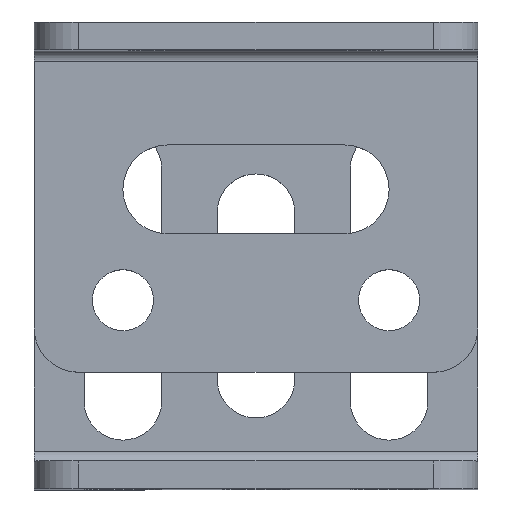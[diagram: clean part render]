
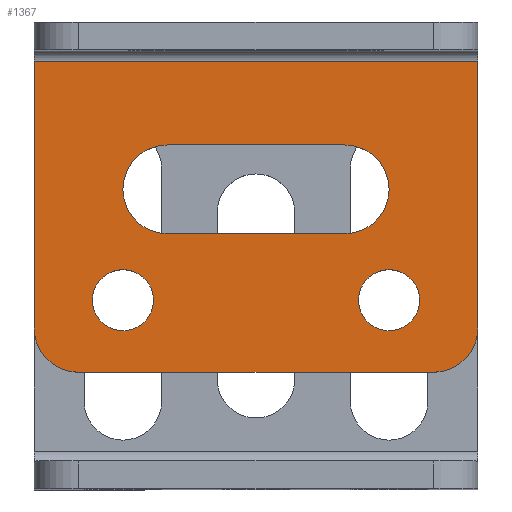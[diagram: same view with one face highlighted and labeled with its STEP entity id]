
A CAD part, top view. The second image highlights one B-rep face of the part: STEP entity #1367.
In plain terms, the highlighted planar face has unit normal (0, 0, 1).
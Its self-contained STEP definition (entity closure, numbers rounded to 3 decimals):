
#25=FACE_BOUND('',#226,.T.);
#26=FACE_BOUND('',#227,.T.);
#27=FACE_BOUND('',#228,.T.);
#50=CIRCLE('',#1500,4.);
#52=CIRCLE('',#1504,4.);
#54=CIRCLE('',#1507,2.75);
#56=CIRCLE('',#1510,2.75);
#58=CIRCLE('',#1513,4.);
#59=CIRCLE('',#1516,4.);
#153=FACE_OUTER_BOUND('',#225,.T.);
#225=EDGE_LOOP('',(#901,#902,#903,#904,#905,#906));
#226=EDGE_LOOP('',(#907,#908,#909,#910));
#227=EDGE_LOOP('',(#911));
#228=EDGE_LOOP('',(#912));
#315=LINE('',#2051,#439);
#320=LINE('',#2064,#444);
#325=LINE('',#2091,#449);
#328=LINE('',#2097,#452);
#329=LINE('',#2101,#453);
#330=LINE('',#2102,#454);
#439=VECTOR('',#1644,10.);
#444=VECTOR('',#1657,10.);
#449=VECTOR('',#1688,10.);
#452=VECTOR('',#1693,10.);
#453=VECTOR('',#1696,10.);
#454=VECTOR('',#1697,10.);
#563=VERTEX_POINT('',#2048);
#564=VERTEX_POINT('',#2050);
#566=VERTEX_POINT('',#2056);
#568=VERTEX_POINT('',#2062);
#570=VERTEX_POINT('',#2071);
#572=VERTEX_POINT('',#2077);
#575=VERTEX_POINT('',#2084);
#576=VERTEX_POINT('',#2086);
#577=VERTEX_POINT('',#2090);
#579=VERTEX_POINT('',#2096);
#580=VERTEX_POINT('',#2098);
#581=VERTEX_POINT('',#2100);
#683=EDGE_CURVE('',#564,#563,#315,.T.);
#687=EDGE_CURVE('',#563,#566,#50,.T.);
#690=EDGE_CURVE('',#566,#568,#320,.T.);
#692=EDGE_CURVE('',#568,#564,#52,.T.);
#695=EDGE_CURVE('',#570,#570,#54,.T.);
#698=EDGE_CURVE('',#572,#572,#56,.T.);
#701=EDGE_CURVE('',#575,#576,#58,.T.);
#703=EDGE_CURVE('',#577,#576,#325,.T.);
#706=EDGE_CURVE('',#575,#579,#328,.T.);
#707=EDGE_CURVE('',#580,#579,#59,.T.);
#708=EDGE_CURVE('',#581,#580,#329,.T.);
#709=EDGE_CURVE('',#581,#577,#330,.T.);
#901=ORIENTED_EDGE('',*,*,#701,.F.);
#902=ORIENTED_EDGE('',*,*,#706,.T.);
#903=ORIENTED_EDGE('',*,*,#707,.F.);
#904=ORIENTED_EDGE('',*,*,#708,.F.);
#905=ORIENTED_EDGE('',*,*,#709,.T.);
#906=ORIENTED_EDGE('',*,*,#703,.T.);
#907=ORIENTED_EDGE('',*,*,#683,.T.);
#908=ORIENTED_EDGE('',*,*,#687,.T.);
#909=ORIENTED_EDGE('',*,*,#690,.T.);
#910=ORIENTED_EDGE('',*,*,#692,.T.);
#911=ORIENTED_EDGE('',*,*,#695,.T.);
#912=ORIENTED_EDGE('',*,*,#698,.T.);
#1248=PLANE('',#1515);
#1367=ADVANCED_FACE('',(#153,#25,#26,#27),#1248,.F.);
#1500=AXIS2_PLACEMENT_3D('',#2058,#1651,#1652);
#1504=AXIS2_PLACEMENT_3D('',#2067,#1662,#1663);
#1507=AXIS2_PLACEMENT_3D('',#2073,#1669,#1670);
#1510=AXIS2_PLACEMENT_3D('',#2079,#1676,#1677);
#1513=AXIS2_PLACEMENT_3D('',#2087,#1683,#1684);
#1515=AXIS2_PLACEMENT_3D('',#2095,#1691,#1692);
#1516=AXIS2_PLACEMENT_3D('',#2099,#1694,#1695);
#1644=DIRECTION('',(1.,0.,0.));
#1651=DIRECTION('center_axis',(0.,0.,
-1.));
#1652=DIRECTION('ref_axis',(0.,1.,0.));
#1657=DIRECTION('',(-1.,0.,0.));
#1662=DIRECTION('center_axis',(0.,0.,
-1.));
#1663=DIRECTION('ref_axis',(0.,-1.,0.));
#1669=DIRECTION('center_axis',(0.,0.,
-1.));
#1670=DIRECTION('ref_axis',(-1.,0.,0.));
#1676=DIRECTION('center_axis',(0.,0.,
-1.));
#1677=DIRECTION('ref_axis',(-1.,0.,0.));
#1683=DIRECTION('center_axis',(0.,0.,
-1.));
#1684=DIRECTION('ref_axis',(-0.707,-0.707,0.));
#1688=DIRECTION('',(0.,-1.,0.));
#1691=DIRECTION('center_axis',(0.,0.,
-1.));
#1692=DIRECTION('ref_axis',(0.,1.,0.));
#1693=DIRECTION('',(1.,0.,0.));
#1694=DIRECTION('center_axis',(0.,0.,
-1.));
#1695=DIRECTION('ref_axis',(0.707,-0.707,0.));
#1696=DIRECTION('',(0.,-1.,0.));
#1697=DIRECTION('',(-1.,0.,0.));
#2048=CARTESIAN_POINT('',(8.,-8.5,-22.25));
#2050=CARTESIAN_POINT('',(-8.,-8.5,-22.25));
#2051=CARTESIAN_POINT('',(4.,-8.5,-22.25));
#2056=CARTESIAN_POINT('',(8.,-16.5,-22.25));
#2058=CARTESIAN_POINT('Origin',(8.,-12.5,-22.25));
#2062=CARTESIAN_POINT('',(-8.,-16.5,-22.25));
#2064=CARTESIAN_POINT('',(-4.,-16.5,-22.25));
#2067=CARTESIAN_POINT('Origin',(-8.,-12.5,-22.25));
#2071=CARTESIAN_POINT('',(14.75,-22.5,-22.25));
#2073=CARTESIAN_POINT('Origin',(12.,-22.5,-22.25));
#2077=CARTESIAN_POINT('',(-9.25,-22.5,-22.25));
#2079=CARTESIAN_POINT('Origin',(-12.,-22.5,-22.25));
#2084=CARTESIAN_POINT('',(-16.,-29.,-22.25));
#2086=CARTESIAN_POINT('',(-20.,-25.,-22.25));
#2087=CARTESIAN_POINT('Origin',(-16.,-25.,-22.25));
#2090=CARTESIAN_POINT('',(-20.,-1.,-22.25));
#2091=CARTESIAN_POINT('',(-20.,2.299,-22.25));
#2095=CARTESIAN_POINT('Origin',(0.,-13.351,
-22.25));
#2096=CARTESIAN_POINT('',(16.,-29.,-22.25));
#2097=CARTESIAN_POINT('',(-20.,-29.,-22.25));
#2098=CARTESIAN_POINT('',(20.,-25.,-22.25));
#2099=CARTESIAN_POINT('Origin',(16.,-25.,-22.25));
#2100=CARTESIAN_POINT('',(20.,-1.,-22.25));
#2101=CARTESIAN_POINT('',(20.,2.299,-22.25));
#2102=CARTESIAN_POINT('',(0.,-1.,-22.25));
